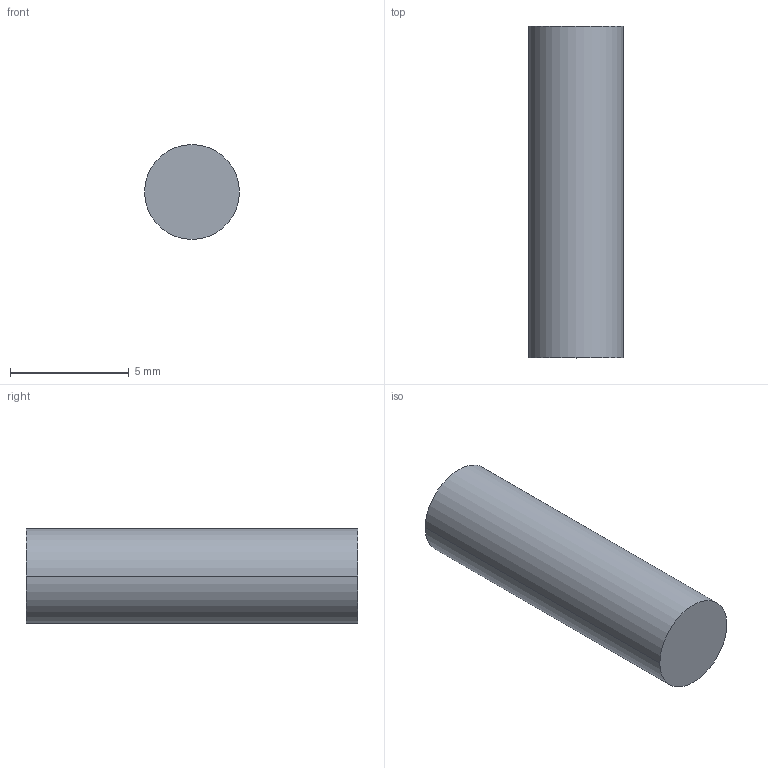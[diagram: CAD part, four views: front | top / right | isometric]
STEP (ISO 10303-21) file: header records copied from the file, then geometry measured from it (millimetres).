
FILE_DESCRIPTION((''),'2;1');
FILE_NAME('GIF0100_3','2002-12-27T',('Lipro doo'),('Lipro d.o.o.'),'PRO/ENGINEER BY PARAMETRIC TECHNOLOGY CORPORATION, 2001150','PRO/ENGINEER BY PARAMETRIC TECHNOLOGY CORPORATION, 2001150','');
FILE_SCHEMA(('CONFIG_CONTROL_DESIGN'));
Length unit declared in the file: millimetre
Products named in the file (1): GIF0100_3
Bounding box: 4 x 14 x 4 mm (x, y, z)
Volume: 175.9 mm3; surface area: 201.1 mm2
Topology: 1 solids, 1 shells, 4 faces, 6 edges, 4 vertices
Faces by surface type: plane 2, cylinder 2
Entity records: 132 total; most frequent: DIRECTION 18, CARTESIAN_POINT 14, ORIENTED_EDGE 12, AXIS2_PLACEMENT_3D 8, EDGE_CURVE 6, VERTEX_POINT 4, EDGE_LOOP 4, FACE_OUTER_BOUND 4
